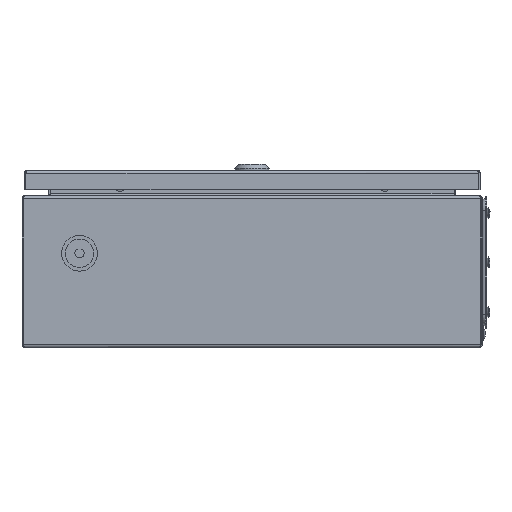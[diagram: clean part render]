
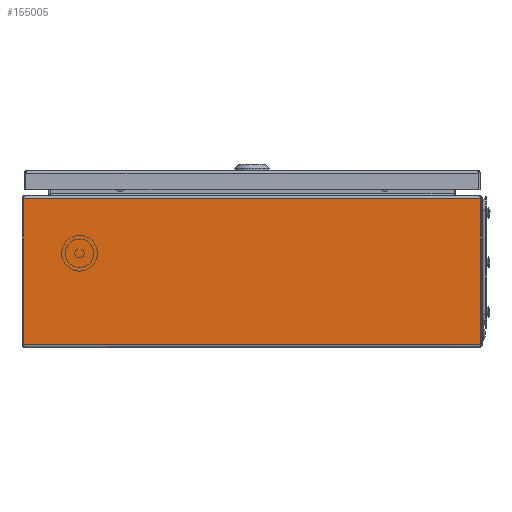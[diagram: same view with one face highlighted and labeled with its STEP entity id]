
A CAD part, left-side view. The second image highlights one B-rep face of the part: STEP entity #155005.
In plain terms, the highlighted planar face has unit normal (-1, 0, 0).
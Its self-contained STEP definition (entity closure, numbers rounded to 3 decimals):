
#2429 = ORIENTED_EDGE ( 'NONE', *, *, #48399, .F. ) ;
#4284 = VECTOR ( 'NONE', #168878, 1000. ) ;
#5647 = DIRECTION ( 'NONE',  ( 0., 1., 0. ) ) ;
#7710 = DIRECTION ( 'NONE',  ( 0., 0., 1. ) ) ;
#9022 = LINE ( 'NONE', #163166, #26061 ) ;
#11711 = DIRECTION ( 'NONE',  ( 0., 1., 0. ) ) ;
#16514 = LINE ( 'NONE', #41437, #4284 ) ;
#16625 = DIRECTION ( 'NONE',  ( 0., -1., 0. ) ) ;
#21185 = LINE ( 'NONE', #120305, #76422 ) ;
#21417 = CARTESIAN_POINT ( 'NONE',  ( -150., 198.623, 2.7 ) ) ;
#26061 = VECTOR ( 'NONE', #133967, 1000. ) ;
#27974 = VERTEX_POINT ( 'NONE', #21417 ) ;
#32014 = CARTESIAN_POINT ( 'NONE',  ( -150., -198.623, 2.7 ) ) ;
#33490 = CARTESIAN_POINT ( 'NONE',  ( -150., -198.729, 2.7 ) ) ;
#36051 = PLANE ( 'NONE',  #70427 ) ;
#39081 = EDGE_CURVE ( 'NONE', #61733, #103428, #56985, .T. ) ;
#41273 = LINE ( 'NONE', #96365, #98222 ) ;
#41437 = CARTESIAN_POINT ( 'NONE',  ( -150., -2200., 129.25 ) ) ;
#48399 = EDGE_CURVE ( 'NONE', #27974, #61733, #9022, .T. ) ;
#50745 = FACE_OUTER_BOUND ( 'NONE', #163063, .T. ) ;
#51017 = ORIENTED_EDGE ( 'NONE', *, *, #52492, .T. ) ;
#52492 = EDGE_CURVE ( 'NONE', #143836, #119734, #16514, .T. ) ;
#56985 = LINE ( 'NONE', #99170, #80873 ) ;
#58558 = EDGE_CURVE ( 'NONE', #127016, #120366, #73619, .T. ) ;
#59856 = CARTESIAN_POINT ( 'NONE',  ( -150., -198.623, 2.7 ) ) ;
#61733 = VERTEX_POINT ( 'NONE', #67423 ) ;
#63553 = EDGE_CURVE ( 'NONE', #103428, #119734, #41273, .T. ) ;
#67423 = CARTESIAN_POINT ( 'NONE',  ( -150., 198.729, 2.7 ) ) ;
#67814 = LINE ( 'NONE', #69639, #105099 ) ;
#68197 = ORIENTED_EDGE ( 'NONE', *, *, #39081, .F. ) ;
#69639 = CARTESIAN_POINT ( 'NONE',  ( -150., -198.729, 129.25 ) ) ;
#70427 = AXIS2_PLACEMENT_3D ( 'NONE', #137878, #105793, #161705 ) ;
#73619 = LINE ( 'NONE', #59856, #88211 ) ;
#76422 = VECTOR ( 'NONE', #5647, 1000. ) ;
#80873 = VECTOR ( 'NONE', #112962, 1000. ) ;
#83788 = CARTESIAN_POINT ( 'NONE',  ( -150., -198.623, 129.25 ) ) ;
#88211 = VECTOR ( 'NONE', #16625, 1000. ) ;
#96365 = CARTESIAN_POINT ( 'NONE',  ( -150., 198.729, 129.25 ) ) ;
#98222 = VECTOR ( 'NONE', #140364, 1000. ) ;
#99170 = CARTESIAN_POINT ( 'NONE',  ( -150., 198.729, 2.7 ) ) ;
#101731 = CARTESIAN_POINT ( 'NONE',  ( -150., -198.729, 129.25 ) ) ;
#103428 = VERTEX_POINT ( 'NONE', #117850 ) ;
#105099 = VECTOR ( 'NONE', #11711, 1000. ) ;
#105741 = VECTOR ( 'NONE', #7710, 1000. ) ;
#105793 = DIRECTION ( 'NONE',  ( 1., 0., 0. ) ) ;
#107040 = ORIENTED_EDGE ( 'NONE', *, *, #116928, .F. ) ;
#109284 = ORIENTED_EDGE ( 'NONE', *, *, #177160, .T. ) ;
#111242 = CARTESIAN_POINT ( 'NONE',  ( -150., -198.729, 2.7 ) ) ;
#112962 = DIRECTION ( 'NONE',  ( 0., 0., 1. ) ) ;
#116928 = EDGE_CURVE ( 'NONE', #127016, #27974, #21185, .T. ) ;
#117850 = CARTESIAN_POINT ( 'NONE',  ( -150., 198.729, 129.25 ) ) ;
#119734 = VERTEX_POINT ( 'NONE', #173231 ) ;
#120305 = CARTESIAN_POINT ( 'NONE',  ( -150., -2200., 2.7 ) ) ;
#120366 = VERTEX_POINT ( 'NONE', #111242 ) ;
#124995 = ORIENTED_EDGE ( 'NONE', *, *, #175856, .T. ) ;
#127016 = VERTEX_POINT ( 'NONE', #32014 ) ;
#132639 = LINE ( 'NONE', #33490, #105741 ) ;
#133967 = DIRECTION ( 'NONE',  ( 0., 1., 0. ) ) ;
#134699 = ORIENTED_EDGE ( 'NONE', *, *, #58558, .T. ) ;
#137878 = CARTESIAN_POINT ( 'NONE',  ( -150., -2200., 129.25 ) ) ;
#140364 = DIRECTION ( 'NONE',  ( 0., -1., 0. ) ) ;
#143836 = VERTEX_POINT ( 'NONE', #83788 ) ;
#153656 = VERTEX_POINT ( 'NONE', #101731 ) ;
#155005 = ADVANCED_FACE ( 'NONE', ( #50745 ), #36051, .F. ) ;
#161705 = DIRECTION ( 'NONE',  ( 0., 0., -1. ) ) ;
#163063 = EDGE_LOOP ( 'NONE', ( #51017, #168324, #68197, #2429, #107040, #134699, #109284, #124995 ) ) ;
#163166 = CARTESIAN_POINT ( 'NONE',  ( -150., 198.623, 2.7 ) ) ;
#168324 = ORIENTED_EDGE ( 'NONE', *, *, #63553, .F. ) ;
#168878 = DIRECTION ( 'NONE',  ( 0., 1., 0. ) ) ;
#173231 = CARTESIAN_POINT ( 'NONE',  ( -150., 198.623, 129.25 ) ) ;
#175856 = EDGE_CURVE ( 'NONE', #153656, #143836, #67814, .T. ) ;
#177160 = EDGE_CURVE ( 'NONE', #120366, #153656, #132639, .T. ) ;
